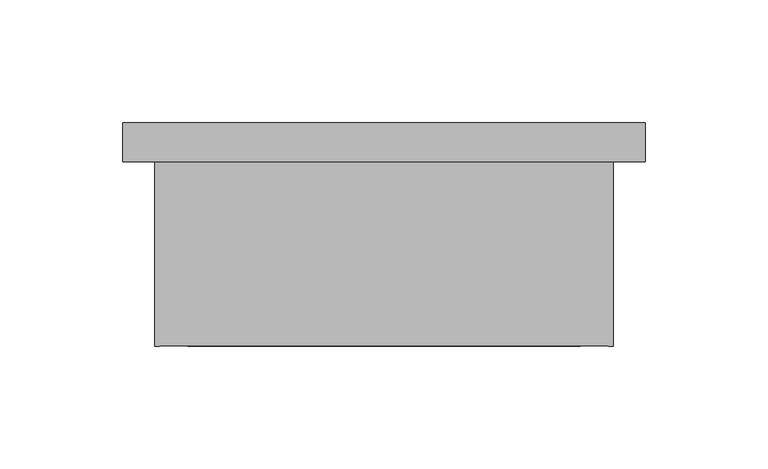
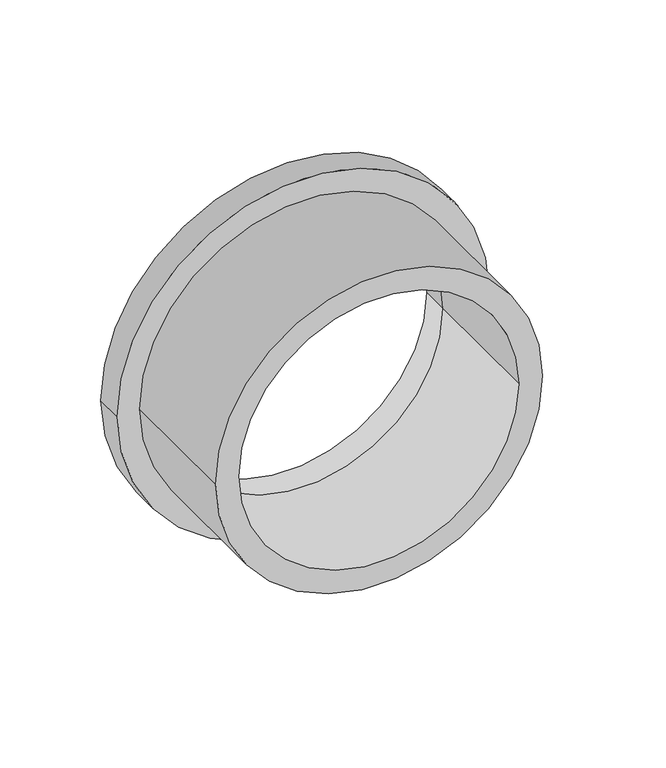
"""IFC4 building model written with IfcOpenShell, lengths in millimetres: pipe fitting geometry, 01051020 : Manguitos porta brida."""

import ifcopenshell
import ifcopenshell.guid

model = None  # the IFC model being written
_history = None  # IfcOwnerHistory: only IFC2X3 demands one
_inside = {}  # id of a spatial element -> (the spatial element, [elements in it])
_under = {}  # id of a project, library or spatial element -> (it, [spatial elements below it])
_declared = {}  # id of a project -> (the project, [libraries it declares])
_typed = {}  # id of a type object -> (the type object, [elements of that type])
_made_of = {}  # id of a material, layer set ... -> (it, [elements and type objects made of it])


def new_model(schema):
    """Start an empty IFC model of exactly this schema.

    Asked for "IFC4X3", IfcOpenShell would pick the latest addendum, in which some entities
    have other attributes; the version numbers below select the first issue.
    IFC2X3 requires an IfcOwnerHistory on every rooted entity: one is made here for all.
    """
    global model, _history
    if schema == "IFC4X3":
        model = ifcopenshell.file(schema_version=(4, 3, 0, 0))
    else:
        model = ifcopenshell.file(schema=schema)
    _inside.clear()
    _under.clear()
    _declared.clear()
    _typed.clear()
    _made_of.clear()
    _history = None
    if model.schema == "IFC2X3":
        org = make("IfcOrganization", Name="unknown")
        user = make(
            "IfcPersonAndOrganization",
            ThePerson=make("IfcPerson", FamilyName="unknown"),
            TheOrganization=org,
        )
        app = make(
            "IfcApplication",
            ApplicationDeveloper=org,
            Version="unknown",
            ApplicationFullName="unknown",
            ApplicationIdentifier="unknown",
        )
        _history = make(
            "IfcOwnerHistory",
            OwningUser=user,
            OwningApplication=app,
            ChangeAction="ADDED",
            CreationDate=0,
        )
    return model


def make(cls, **values):
    """One entity of the class cls with the attributes given. An attribute that is None is left unset."""
    return model.create_entity(
        cls, **{name: value for name, value in values.items() if value is not None}
    )


def rooted(cls, **values):
    """An entity with a GlobalId (a new one), such as an element, a storey or a relation."""
    return make(cls, GlobalId=ifcopenshell.guid.new(), OwnerHistory=_history, **values)


def si_unit(unit_type, name, prefix=None):
    """IfcSIUnit, for example si_unit("LENGTHUNIT", "METRE", prefix="MILLI")."""
    return make("IfcSIUnit", UnitType=unit_type, Prefix=prefix, Name=name)


def assignment(units):
    """IfcUnitAssignment: the units of a project."""
    return None if units is None else make("IfcUnitAssignment", Units=units)


def point(xyz):
    """IfcCartesianPoint."""
    return None if xyz is None else make("IfcCartesianPoint", Coordinates=xyz)


def direction(xyz):
    """IfcDirection."""
    return None if xyz is None else make("IfcDirection", DirectionRatios=xyz)


def frame(location, z_axis=None, x_axis=None):
    """IfcAxis2Placement3D, a coordinate frame: its origin and axes. An axis left out is left unset."""
    return make(
        "IfcAxis2Placement3D",
        Location=point(location),
        Axis=direction(z_axis),
        RefDirection=direction(x_axis),
    )


def frame_2d(location, x_axis=None):
    """IfcAxis2Placement2D, a coordinate frame in the plane: its origin and x axis."""
    return make(
        "IfcAxis2Placement2D", Location=point(location), RefDirection=direction(x_axis)
    )


def origin():
    """The frame at (0, 0, 0) with its axes left unset."""
    return frame((0.0, 0.0, 0.0))


def origin_2d():
    """The frame at (0, 0) in the plane with its x axis left unset."""
    return frame_2d((0.0, 0.0))


def place(relative_to, where):
    """IfcLocalPlacement: puts the frame where relative to a parent placement (None: the world)."""
    return make(
        "IfcLocalPlacement", PlacementRelTo=relative_to, RelativePlacement=where
    )


def context(
    kind, dimensions, precision=None, world=None, true_north=None, identifier=None
):
    """IfcGeometricRepresentationContext, for example the 3D "Model" context."""
    return make(
        "IfcGeometricRepresentationContext",
        ContextIdentifier=identifier,
        ContextType=kind,
        CoordinateSpaceDimension=dimensions,
        Precision=precision,
        WorldCoordinateSystem=world,
        TrueNorth=true_north,
    )


def project(units=None, contexts=None):
    """IfcProject with its units and contexts."""
    return rooted(
        "IfcProject",
        Name="project",
        RepresentationContexts=contexts,
        UnitsInContext=assignment(units),
    )


def spatial(cls, under=None, at=None, **own):
    """A site, building, storey or space (cls), placed at a placement, below another one or the project."""
    s = rooted(cls, ObjectPlacement=at, **own)
    if under is not None:
        _under.setdefault(under.id(), (under, []))[1].append(s)
    return s


def circle_curve(where, radius):
    """IfcCircle in the frame where."""
    return make("IfcCircle", Position=where, Radius=radius)


def trimmed(basis, trim1, trim2, sense, master):
    """IfcTrimmedCurve: the piece of a basis curve between two trims."""
    return make(
        "IfcTrimmedCurve",
        BasisCurve=basis,
        Trim1=trim1,
        Trim2=trim2,
        SenseAgreement=sense,
        MasterRepresentation=master,
    )


def segment(curve, same_sense, transition):
    """IfcCompositeCurveSegment."""
    return make(
        "IfcCompositeCurveSegment",
        Transition=transition,
        SameSense=same_sense,
        ParentCurve=curve,
    )


def composite_curve(segments, self_intersect=None):
    """IfcCompositeCurve: segments joined end to end."""
    return make("IfcCompositeCurve", Segments=segments, SelfIntersect=self_intersect)


def outline(outer, holes=None, kind="AREA"):
    """IfcArbitraryClosedProfileDef: a profile drawn as a closed curve; with holes, ...WithVoids."""
    if holes is None:
        return make("IfcArbitraryClosedProfileDef", ProfileType=kind, OuterCurve=outer)
    return make(
        "IfcArbitraryProfileDefWithVoids",
        ProfileType=kind,
        OuterCurve=outer,
        InnerCurves=holes,
    )


def extrude(swept, where, along, depth):
    """IfcExtrudedAreaSolid: the profile swept, set in the frame where, extruded along a direction by depth."""
    return make(
        "IfcExtrudedAreaSolid",
        SweptArea=swept,
        Position=where,
        ExtrudedDirection=direction(along),
        Depth=depth,
    )


def shape(context_of_items, identifier, shape_type, items):
    """IfcShapeRepresentation: the items that make up one representation, for example the "Body"."""
    return make(
        "IfcShapeRepresentation",
        ContextOfItems=context_of_items,
        RepresentationIdentifier=identifier,
        RepresentationType=shape_type,
        Items=items,
    )


def source(mapping_origin, context_of_items, identifier, shape_type, items):
    """IfcRepresentationMap: a shape defined once, which mapped items show again and again."""
    return make(
        "IfcRepresentationMap",
        MappingOrigin=mapping_origin,
        MappedRepresentation=shape(context_of_items, identifier, shape_type, items),
    )


def transform(
    local_origin,
    x_axis=None,
    y_axis=None,
    z_axis=None,
    scale=None,
    scale2=None,
    scale3=None,
    uniform=True,
):
    """IfcCartesianTransformationOperator3D, or its non-uniform kind. x_axis, y_axis, z_axis: its Axis1, 2, 3."""
    if uniform:
        return make(
            "IfcCartesianTransformationOperator3D",
            Axis1=direction(x_axis),
            Axis2=direction(y_axis),
            LocalOrigin=point(local_origin),
            Scale=scale,
            Axis3=direction(z_axis),
        )
    return make(
        "IfcCartesianTransformationOperator3DnonUniform",
        Axis1=direction(x_axis),
        Axis2=direction(y_axis),
        LocalOrigin=point(local_origin),
        Scale=scale,
        Axis3=direction(z_axis),
        Scale2=scale2,
        Scale3=scale3,
    )


def mapped(mapping_source, mapping_target):
    """IfcMappedItem: shows the shape of a source again, moved by a transform."""
    return make(
        "IfcMappedItem", MappingSource=mapping_source, MappingTarget=mapping_target
    )


def made_of(thing, what):
    """Note that an element or type object is made of a material, layer set ...; save() writes the relation."""
    if what is not None:
        _made_of.setdefault(what.id(), (what, []))[1].append(thing)
    return thing


def element(
    cls,
    number,
    at=None,
    inside=None,
    cuts=None,
    type_object=None,
    material=None,
    context=None,
    identifier="Body",
    shape_type=None,
    held_by="IfcProductDefinitionShape",
    body=None,
    shapes=None,
    **own,
):
    """One element of the class cls, such as IfcWall. Its Tag is "e" and its number.

    at: its placement. inside: the storey or other place that contains it. cuts: it is an
    opening in that element (IfcRelVoidsElement). A single representation is given by context,
    identifier, shape_type and body (its items); several are given by shapes. held_by: the class
    of the entity that holds the representations. save() writes the other relations.
    """
    e = rooted(cls, Tag="e%d" % number, ObjectPlacement=at, **own)
    if body is not None:
        shapes = [shape(context, identifier, shape_type, body)]
    if shapes is not None:
        e.Representation = make(held_by, Representations=shapes)
    if inside is not None:
        _inside.setdefault(inside.id(), (inside, []))[1].append(e)
    if cuts is not None:
        rooted(
            "IfcRelVoidsElement", RelatingBuildingElement=cuts, RelatedOpeningElement=e
        )
    if type_object is not None:
        _typed.setdefault(type_object.id(), (type_object, []))[1].append(e)
    return made_of(e, material)


def aggregate(whole, parts):
    """IfcRelAggregates: a whole, such as a stair, and the parts it consists of."""
    return rooted("IfcRelAggregates", RelatingObject=whole, RelatedObjects=parts)


def save(model, path):
    """Write the relations noted so far, then the file.

    IfcRelAggregates (storeys below a building ...), IfcRelContainedInSpatialStructure (elements
    in a storey), IfcRelDefinesByType, IfcRelAssociatesMaterial and IfcRelDeclares: one each for
    every whole, place, type object, material and project.
    """
    for whole, parts in _under.values():
        aggregate(whole, parts)
    for where, things in _inside.values():
        rooted(
            "IfcRelContainedInSpatialStructure",
            RelatedElements=things,
            RelatingStructure=where,
        )
    for kind, things in _typed.values():
        rooted("IfcRelDefinesByType", RelatedObjects=things, RelatingType=kind)
    for what, things in _made_of.values():
        rooted("IfcRelAssociatesMaterial", RelatedObjects=things, RelatingMaterial=what)
    for by, libraries in _declared.values():
        rooted("IfcRelDeclares", RelatingContext=by, RelatedDefinitions=libraries)
    model.write(path)


def pipe_fitting_bf18d032(model_context):
    return source(origin(), model_context, "Body", "SweptSolid", [
        extrude(outline(composite_curve([segment(trimmed(circle_curve(origin_2d(), 93.5), [point((0.0, -93.5))], [point((0.0, 93.5))], False, "CARTESIAN"), True, "CONTINUOUS"), segment(trimmed(circle_curve(origin_2d(), 93.5), [point((0.0, 93.5))], [point((0.0, -93.5))], False, "CARTESIAN"), True, "CONTINUOUS")], self_intersect=False), holes=[composite_curve([segment(trimmed(circle_curve(origin_2d(), 80.0), [point((0.0, -80.0))], [point((0.0, 80.0))], True, "CARTESIAN"), True, "CONTINUOUS"), segment(trimmed(circle_curve(origin_2d(), 80.0), [point((0.0, 80.0))], [point((0.0, -80.0))], True, "CARTESIAN"), True, "CONTINUOUS")], self_intersect=False)]), frame((0.0, -75.0, 0.0), z_axis=(0.0, 1.0, 0.0), x_axis=(0.0, 0.0, 1.0)), (0.0, 0.0, 1.0), 75.0),
        extrude(outline(composite_curve([segment(trimmed(circle_curve(origin_2d(), 106.5), [point((0.0, -106.5))], [point((0.0, 106.5))], False, "CARTESIAN"), True, "CONTINUOUS"), segment(trimmed(circle_curve(origin_2d(), 106.5), [point((0.0, 106.5))], [point((0.0, -106.5))], False, "CARTESIAN"), True, "CONTINUOUS")], self_intersect=False), holes=[composite_curve([segment(trimmed(circle_curve(origin_2d(), 80.0), [point((0.0, -80.0))], [point((0.0, 80.0))], True, "CARTESIAN"), True, "CONTINUOUS"), segment(trimmed(circle_curve(origin_2d(), 80.0), [point((0.0, 80.0))], [point((0.0, -80.0))], True, "CARTESIAN"), True, "CONTINUOUS")], self_intersect=False)]), frame((0.0, 0.0, 0.0), z_axis=(0.0, 1.0, 0.0), x_axis=(0.0, 0.0, 1.0)), (0.0, 0.0, 1.0), 16.0),
    ])


if __name__ == "__main__":
    model = new_model("IFC4")
    model_context = context("Model", 3, world=origin())
    ifc_project = project(units=[si_unit("LENGTHUNIT", "METRE", prefix="MILLI")], contexts=[model_context])
    site = spatial("IfcSite", under=ifc_project)
    building = spatial("IfcBuilding", under=site)
    placement = place(None, origin())
    pipe_fitting_shape = pipe_fitting_bf18d032(model_context)
    element("IfcPipeFitting", 1, ObjectType="01051020 : Manguitos porta brida", at=placement, inside=building, context=model_context, shape_type="MappedRepresentation", body=[
        mapped(pipe_fitting_shape, transform((0.0, 0.0, 0.0), x_axis=(1.0, 0.0, 0.0), y_axis=(0.0, 1.0, 0.0), z_axis=(0.0, 0.0, 1.0))),
    ])
    save(model, "model.ifc")
